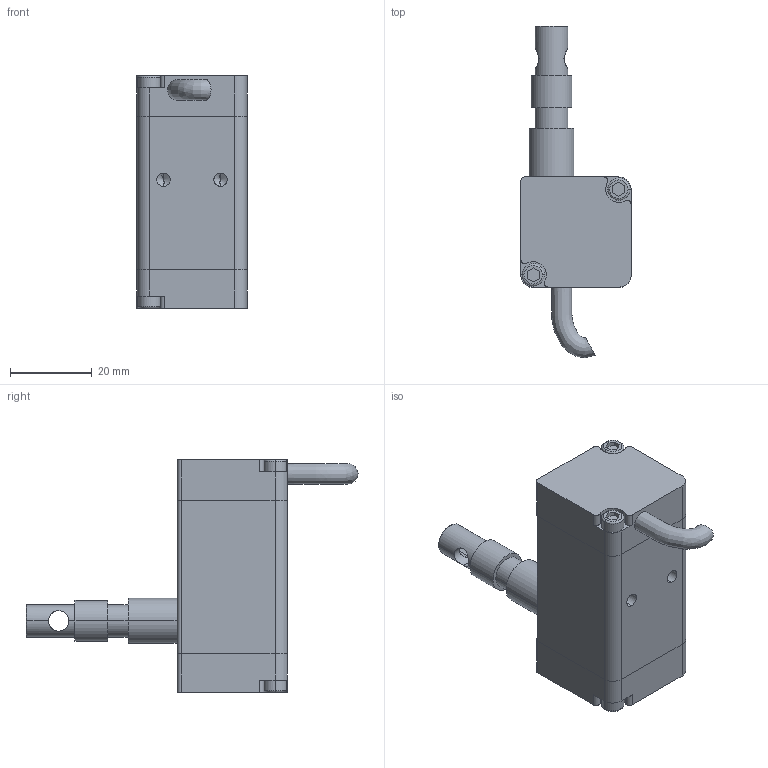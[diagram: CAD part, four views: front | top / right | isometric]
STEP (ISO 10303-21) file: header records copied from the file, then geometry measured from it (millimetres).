
FILE_DESCRIPTION(/* description */ (''),/* implementation_level */ '2;1');
FILE_NAME(/* name */ 'IP68 BRT27 0.5m-数字量 -拉线 模型.stp',/* time_stamp */ '2022-11-14T15:15:48+08:00',/* author */ (''),/* organization */ (''),/* preprocessor_version */ 'ST-DEVELOPER v16.7',/* originating_system */ 'SIEMENS PLM Software NX 12.0',/* authorisation */ '');
FILE_SCHEMA (('AUTOMOTIVE_DESIGN { 1 0 10303 214 3 1 1 1 }'));
Length unit declared in the file: millimetre
Products named in the file (1): Leno51245043btey
Bounding box: 27 x 81.32 x 57 mm (x, y, z)
Volume: 43513.6 mm3; surface area: 9584.5 mm2
Topology: 2 solids, 2 shells, 139 faces, 335 edges, 205 vertices
Faces by surface type: cylinder 61, plane 57, cone 12, torus 8, bspline 1
Full cylindrical faces by diameter (mm): 5 x1
Entity records: 4305 total; most frequent: CARTESIAN_POINT 1003, DIRECTION 710, ORIENTED_EDGE 650, EDGE_CURVE 325, AXIS2_PLACEMENT_3D 262, VERTEX_POINT 205, LINE 186, VECTOR 186
